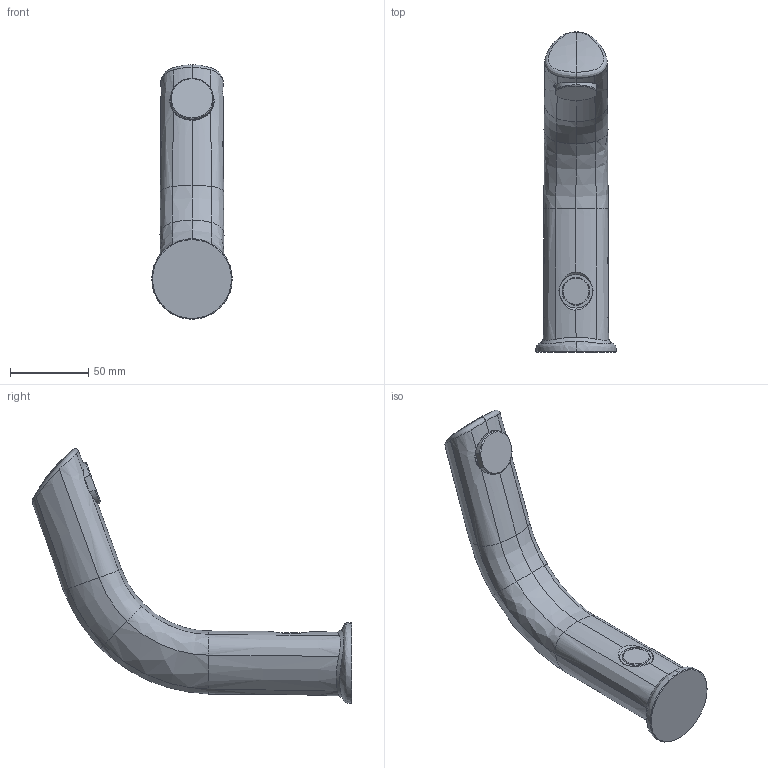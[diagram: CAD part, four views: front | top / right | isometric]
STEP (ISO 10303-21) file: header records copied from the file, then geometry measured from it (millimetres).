
FILE_DESCRIPTION (( 'STEP AP203' ), '1' );
FILE_NAME ('6104+6134+6105.STEP', '2018-07-11T11:25:22', ( '' ), ( '' ), 'SwSTEP 2.0', 'SolidWorks 2016', '' );
FILE_SCHEMA (( 'CONFIG_CONTROL_DESIGN' ));
Length unit declared in the file: millimetre
Products named in the file (1): 6104+6134+6105
Bounding box: 51.5 x 204.96 x 162.99 mm (x, y, z)
Volume: 336848.8 mm3; surface area: 37722.1 mm2
Topology: 1 solids, 2 shells, 76 faces, 175 edges, 107 vertices
Faces by surface type: bspline 40, cone 12, plane 11, cylinder 9, torus 4
Entity records: 10909 total; most frequent: CARTESIAN_POINT 9548, ORIENTED_EDGE 350, EDGE_CURVE 175, DIRECTION 163, VERTEX_POINT 107, EDGE_LOOP 82, ADVANCED_FACE 76, FACE_OUTER_BOUND 76
